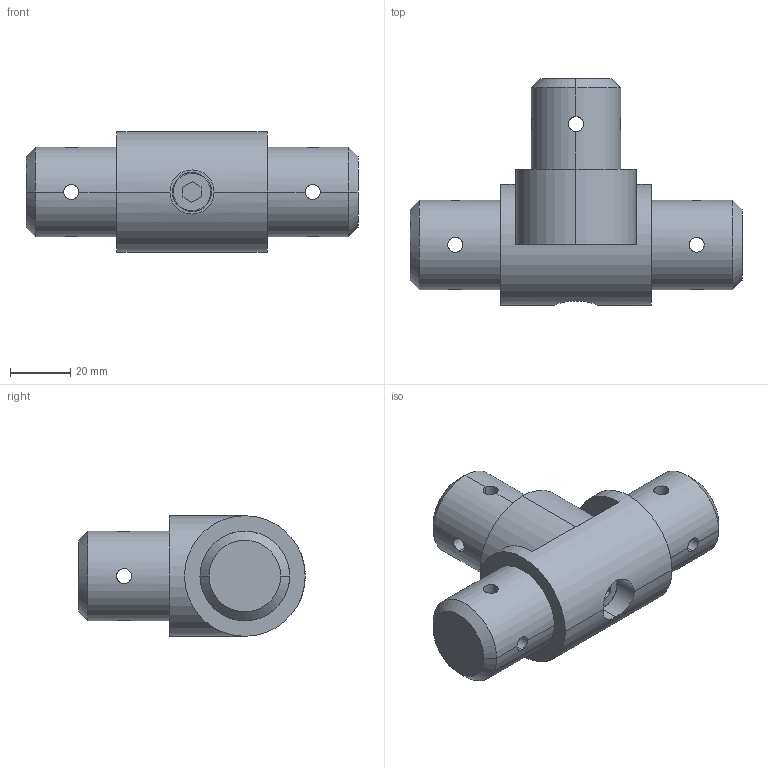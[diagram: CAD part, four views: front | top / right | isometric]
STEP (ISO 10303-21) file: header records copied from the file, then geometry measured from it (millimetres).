
FILE_DESCRIPTION (( 'STEP AP214' ), '1' );
FILE_NAME ('084.313.003.STEP', '2020-02-05T14:12:46', ( '' ), ( '' ), 'SwSTEP 2.0', 'SolidWorks 2018', '' );
FILE_SCHEMA (( 'AUTOMOTIVE_DESIGN' ));
Length unit declared in the file: millimetre
Products named in the file (4): 084.313.011-L; 084.313.003; 084.301.000 VITI ALUSIC_084.301.003; 084.313.005-L
Assembly tree (3 placements, depth 2):
  084.313.003
    084.313.005-L
    084.313.011-L
    084.301.000 VITI ALUSIC_084.301.003
Bounding box: 110 x 75 x 40 mm (x, y, z)
Volume: 125165.7 mm3; surface area: 27016.6 mm2
Topology: 3 solids, 3 shells, 77 faces, 200 edges, 121 vertices
Faces by surface type: cylinder 44, plane 21, cone 10, torus 2
Entity records: 3528 total; most frequent: CARTESIAN_POINT 1292, ORIENTED_EDGE 396, DIRECTION 358, EDGE_CURVE 198, AXIS2_PLACEMENT_3D 137, VERTEX_POINT 121, EDGE_LOOP 91, LINE 84
